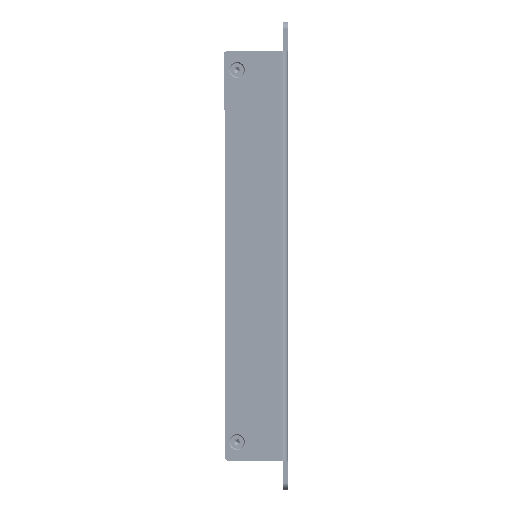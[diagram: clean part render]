
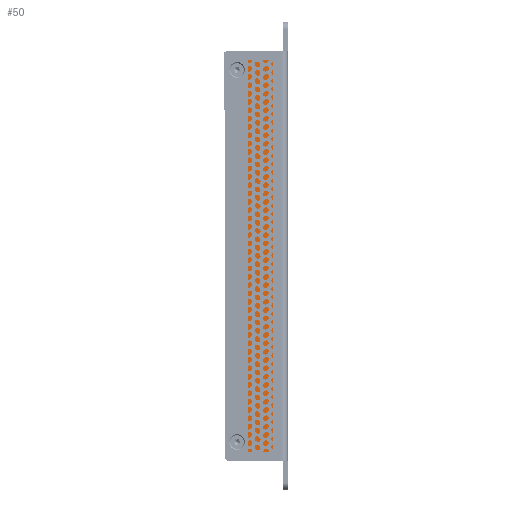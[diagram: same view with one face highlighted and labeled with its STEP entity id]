
A CAD part, left-side view. The second image highlights one B-rep face of the part: STEP entity #50.
In plain terms, the highlighted planar face has unit normal (-1, 0, 0).
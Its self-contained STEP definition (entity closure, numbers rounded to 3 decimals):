
#50 = ADVANCED_FACE ( 'NONE', ( #58702 ), #28370, .F. ) ;
#76 = VECTOR ( 'NONE', #47967, 1000. ) ;
#886 = CARTESIAN_POINT ( 'NONE',  ( -54.5, 2., 79. ) ) ;
#4386 = LINE ( 'NONE', #106738, #76 ) ;
#16691 = VERTEX_POINT ( 'NONE', #105432 ) ;
#25101 = CARTESIAN_POINT ( 'NONE',  ( -54.5, 5.9, 78.99 ) ) ;
#26051 = LINE ( 'NONE', #25101, #49383 ) ;
#28370 = PLANE ( 'NONE',  #103248 ) ;
#34847 = CARTESIAN_POINT ( 'NONE',  ( -54.5, 24.4, 82.5 ) ) ;
#37382 = VECTOR ( 'NONE', #121880, 1000. ) ;
#41142 = ORIENTED_EDGE ( 'NONE', *, *, #187338, .F. ) ;
#47967 = DIRECTION ( 'NONE',  ( 0., 1., 0. ) ) ;
#49383 = VECTOR ( 'NONE', #54488, 1000. ) ;
#54488 = DIRECTION ( 'NONE',  ( 0., 0., -1. ) ) ;
#56833 = DIRECTION ( 'NONE',  ( 1., 0., 0. ) ) ;
#58702 = FACE_OUTER_BOUND ( 'NONE', #113125, .T. ) ;
#69198 = CARTESIAN_POINT ( 'NONE',  ( -54.5, 24.4, 79. ) ) ;
#77572 = LINE ( 'NONE', #34847, #170991 ) ;
#83034 = CARTESIAN_POINT ( 'NONE',  ( -54.5, 5.9, 79. ) ) ;
#84778 = ORIENTED_EDGE ( 'NONE', *, *, #145811, .F. ) ;
#91148 = ORIENTED_EDGE ( 'NONE', *, *, #184696, .T. ) ;
#103248 = AXIS2_PLACEMENT_3D ( 'NONE', #886, #56833, #143126 ) ;
#105432 = CARTESIAN_POINT ( 'NONE',  ( -54.5, 5.9, -79. ) ) ;
#106738 = CARTESIAN_POINT ( 'NONE',  ( -54.5, 2., 79. ) ) ;
#113125 = EDGE_LOOP ( 'NONE', ( #41142, #91148, #84778, #113784 ) ) ;
#113784 = ORIENTED_EDGE ( 'NONE', *, *, #128790, .F. ) ;
#116079 = CARTESIAN_POINT ( 'NONE',  ( -54.5, 24.4, -79. ) ) ;
#121166 = DIRECTION ( 'NONE',  ( 0., 0., 1. ) ) ;
#121880 = DIRECTION ( 'NONE',  ( 0., 1., 0. ) ) ;
#128790 = EDGE_CURVE ( 'NONE', #16691, #129168, #135155, .T. ) ;
#129168 = VERTEX_POINT ( 'NONE', #116079 ) ;
#135155 = LINE ( 'NONE', #165477, #37382 ) ;
#143126 = DIRECTION ( 'NONE',  ( 0., 0., -1. ) ) ;
#145811 = EDGE_CURVE ( 'NONE', #129168, #179947, #77572, .T. ) ;
#147943 = VERTEX_POINT ( 'NONE', #83034 ) ;
#165477 = CARTESIAN_POINT ( 'NONE',  ( -54.5, 2., -79. ) ) ;
#170991 = VECTOR ( 'NONE', #121166, 1000. ) ;
#179947 = VERTEX_POINT ( 'NONE', #69198 ) ;
#184696 = EDGE_CURVE ( 'NONE', #147943, #179947, #4386, .T. ) ;
#187338 = EDGE_CURVE ( 'NONE', #147943, #16691, #26051, .T. ) ;
